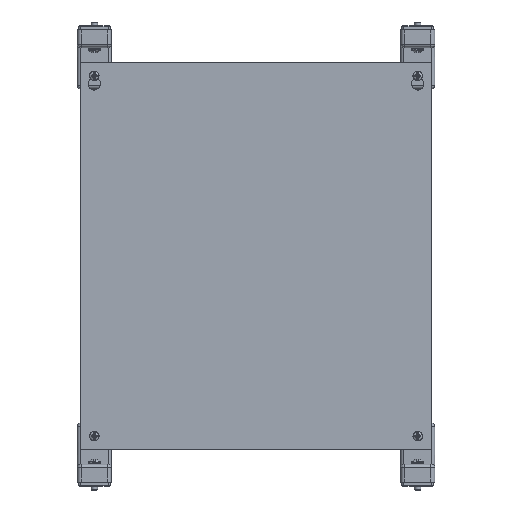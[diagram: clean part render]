
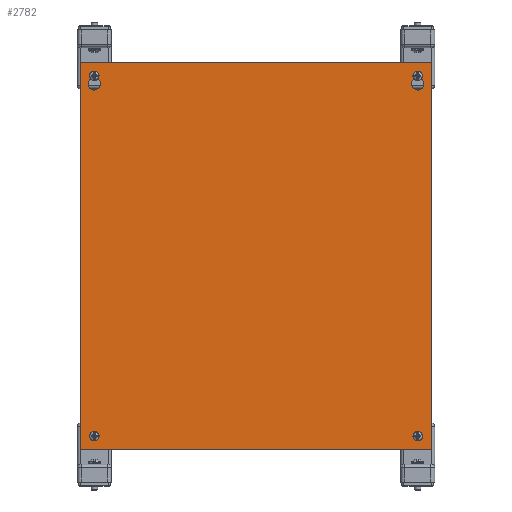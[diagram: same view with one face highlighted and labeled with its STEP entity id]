
A CAD part, front view. The second image highlights one B-rep face of the part: STEP entity #2782.
In plain terms, the highlighted planar face has unit normal (0, -1, 0).
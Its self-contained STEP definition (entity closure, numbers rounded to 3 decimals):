
#763=LINE('',#17447,#1587);
#764=LINE('',#17451,#1588);
#765=LINE('',#17454,#1589);
#766=LINE('',#17457,#1590);
#767=LINE('',#17459,#1591);
#768=LINE('',#17461,#1592);
#769=LINE('',#17462,#1593);
#770=LINE('',#17467,#1594);
#1587=VECTOR('',#13798,1.);
#1588=VECTOR('',#13801,1.);
#1589=VECTOR('',#13804,1.);
#1590=VECTOR('',#13805,1.);
#1591=VECTOR('',#13806,1.);
#1592=VECTOR('',#13807,1.);
#1593=VECTOR('',#13808,1.);
#1594=VECTOR('',#13811,1.);
#2508=FACE_BOUND('',#4514,.T.);
#2509=FACE_BOUND('',#4515,.T.);
#2510=FACE_BOUND('',#4516,.T.);
#2511=FACE_BOUND('',#4517,.T.);
#2512=FACE_BOUND('',#4518,.T.);
#2782=ADVANCED_FACE('',(#2508,#2509,#2510,#2511,#2512),#3503,.T.);
#3503=PLANE('',#12188);
#4514=EDGE_LOOP('',(#5665));
#4515=EDGE_LOOP('',(#5666,#5667,#5668,#5669));
#4516=EDGE_LOOP('',(#5670));
#4517=EDGE_LOOP('',(#5671,#5672,#5673,#5674));
#4518=EDGE_LOOP('',(#5675,#5676,#5677,#5678));
#5665=ORIENTED_EDGE('',*,*,#9922,.T.);
#5666=ORIENTED_EDGE('',*,*,#9923,.F.);
#5667=ORIENTED_EDGE('',*,*,#9924,.F.);
#5668=ORIENTED_EDGE('',*,*,#9925,.F.);
#5669=ORIENTED_EDGE('',*,*,#9926,.F.);
#5670=ORIENTED_EDGE('',*,*,#9927,.F.);
#5671=ORIENTED_EDGE('',*,*,#9928,.T.);
#5672=ORIENTED_EDGE('',*,*,#9929,.T.);
#5673=ORIENTED_EDGE('',*,*,#9930,.T.);
#5674=ORIENTED_EDGE('',*,*,#9931,.T.);
#5675=ORIENTED_EDGE('',*,*,#9932,.T.);
#5676=ORIENTED_EDGE('',*,*,#9933,.T.);
#5677=ORIENTED_EDGE('',*,*,#9934,.T.);
#5678=ORIENTED_EDGE('',*,*,#9935,.T.);
#8800=VERTEX_POINT('',#17443);
#8801=VERTEX_POINT('',#17445);
#8802=VERTEX_POINT('',#17446);
#8803=VERTEX_POINT('',#17448);
#8804=VERTEX_POINT('',#17450);
#8805=VERTEX_POINT('',#17453);
#8806=VERTEX_POINT('',#17455);
#8807=VERTEX_POINT('',#17456);
#8808=VERTEX_POINT('',#17458);
#8809=VERTEX_POINT('',#17460);
#8810=VERTEX_POINT('',#17463);
#8811=VERTEX_POINT('',#17464);
#8812=VERTEX_POINT('',#17466);
#8813=VERTEX_POINT('',#17468);
#9922=EDGE_CURVE('',#8800,#8800,#11470,.T.);
#9923=EDGE_CURVE('',#8801,#8802,#11471,.T.);
#9924=EDGE_CURVE('',#8803,#8801,#763,.T.);
#9925=EDGE_CURVE('',#8804,#8803,#11472,.T.);
#9926=EDGE_CURVE('',#8802,#8804,#764,.T.);
#9927=EDGE_CURVE('',#8805,#8805,#11473,.T.);
#9928=EDGE_CURVE('',#8806,#8807,#765,.T.);
#9929=EDGE_CURVE('',#8807,#8808,#766,.T.);
#9930=EDGE_CURVE('',#8808,#8809,#767,.T.);
#9931=EDGE_CURVE('',#8809,#8806,#768,.T.);
#9932=EDGE_CURVE('',#8810,#8811,#769,.T.);
#9933=EDGE_CURVE('',#8811,#8812,#11474,.T.);
#9934=EDGE_CURVE('',#8812,#8813,#770,.T.);
#9935=EDGE_CURVE('',#8813,#8810,#11475,.T.);
#11470=CIRCLE('',#12182,2.15);
#11471=CIRCLE('',#12183,4.75);
#11472=CIRCLE('',#12184,2.15);
#11473=CIRCLE('',#12185,2.15);
#11474=CIRCLE('',#12186,4.75);
#11475=CIRCLE('',#12187,2.15);
#12182=AXIS2_PLACEMENT_3D('',#17442,#13794,#13795);
#12183=AXIS2_PLACEMENT_3D('',#17444,#13796,#13797);
#12184=AXIS2_PLACEMENT_3D('',#17449,#13799,#13800);
#12185=AXIS2_PLACEMENT_3D('',#17452,#13802,#13803);
#12186=AXIS2_PLACEMENT_3D('',#17465,#13809,#13810);
#12187=AXIS2_PLACEMENT_3D('',#17469,#13812,#13813);
#12188=AXIS2_PLACEMENT_3D('',#17470,#13814,#13815);
#13794=DIRECTION('',(0.,1.,0.));
#13795=DIRECTION('',(-1.,0.,0.));
#13796=DIRECTION('',(0.,-1.,0.));
#13797=DIRECTION('',(-1.,0.,0.));
#13798=DIRECTION('',(0.,0.,-1.));
#13799=DIRECTION('',(0.,-1.,0.));
#13800=DIRECTION('',(-1.,0.,0.));
#13801=DIRECTION('',(0.,0.,1.));
#13802=DIRECTION('',(0.,-1.,0.));
#13803=DIRECTION('',(1.,0.,0.));
#13804=DIRECTION('',(0.,0.,-1.));
#13805=DIRECTION('',(1.,0.,0.));
#13806=DIRECTION('',(0.,0.,1.));
#13807=DIRECTION('',(-1.,0.,0.));
#13808=DIRECTION('',(0.,0.,-1.));
#13809=DIRECTION('',(0.,1.,0.));
#13810=DIRECTION('',(1.,0.,0.));
#13811=DIRECTION('',(0.,0.,1.));
#13812=DIRECTION('',(0.,1.,0.));
#13813=DIRECTION('',(1.,0.,0.));
#13814=DIRECTION('',(0.,-1.,0.));
#13815=DIRECTION('',(1.,0.,0.));
#17442=CARTESIAN_POINT('',(-10.5,-148.,-138.));
#17443=CARTESIAN_POINT('',(-12.65,-148.,-138.));
#17444=CARTESIAN_POINT('',(-10.5,-148.,130.));
#17445=CARTESIAN_POINT('',(-12.65,-148.,134.235));
#17446=CARTESIAN_POINT('',(-8.35,-148.,134.235));
#17447=CARTESIAN_POINT('',(-12.65,-148.,136.));
#17448=CARTESIAN_POINT('',(-12.65,-148.,136.));
#17449=CARTESIAN_POINT('',(-10.5,-148.,136.));
#17450=CARTESIAN_POINT('',(-8.35,-148.,136.));
#17451=CARTESIAN_POINT('',(-8.35,-148.,134.235));
#17452=CARTESIAN_POINT('',(-256.5,-148.,-138.));
#17453=CARTESIAN_POINT('',(-254.35,-148.,-138.));
#17454=CARTESIAN_POINT('',(-267.,-148.,146.));
#17455=CARTESIAN_POINT('',(-267.,-148.,146.));
#17456=CARTESIAN_POINT('',(-267.,-148.,-148.));
#17457=CARTESIAN_POINT('',(-267.,-148.,-148.));
#17458=CARTESIAN_POINT('',(0.,-148.,-148.));
#17459=CARTESIAN_POINT('',(0.,-148.,-148.));
#17460=CARTESIAN_POINT('',(0.,-148.,146.));
#17461=CARTESIAN_POINT('',(0.,-148.,146.));
#17462=CARTESIAN_POINT('',(-254.35,-148.,136.));
#17463=CARTESIAN_POINT('',(-254.35,-148.,136.));
#17464=CARTESIAN_POINT('',(-254.35,-148.,134.235));
#17465=CARTESIAN_POINT('',(-256.5,-148.,130.));
#17466=CARTESIAN_POINT('',(-258.65,-148.,134.235));
#17467=CARTESIAN_POINT('',(-258.65,-148.,134.235));
#17468=CARTESIAN_POINT('',(-258.65,-148.,136.));
#17469=CARTESIAN_POINT('',(-256.5,-148.,136.));
#17470=CARTESIAN_POINT('',(0.,-148.,146.));
